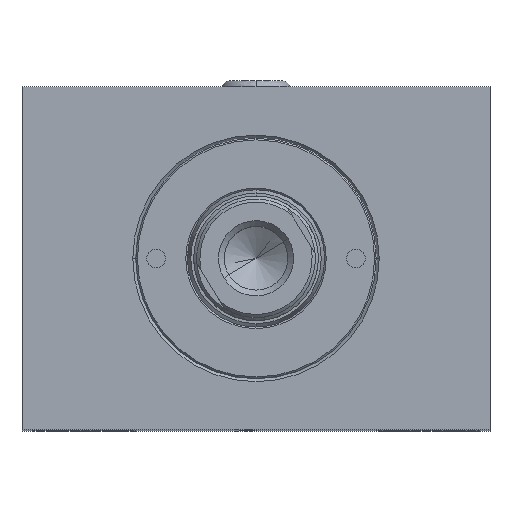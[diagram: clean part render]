
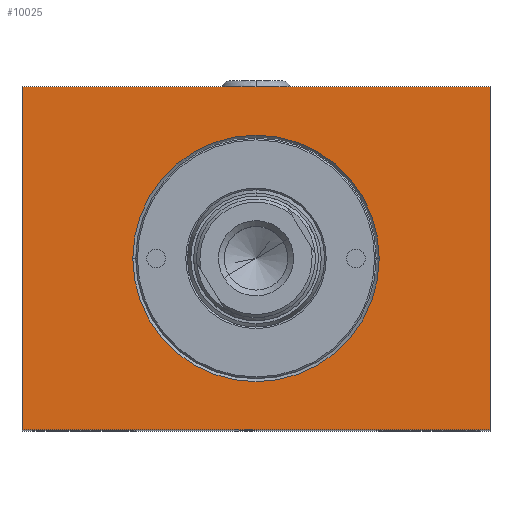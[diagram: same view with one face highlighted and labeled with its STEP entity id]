
A CAD part, top view. The second image highlights one B-rep face of the part: STEP entity #10025.
In plain terms, the highlighted planar face has unit normal (0, 0, 1).
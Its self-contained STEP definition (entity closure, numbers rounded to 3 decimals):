
#85 = DIRECTION ( 'NONE',  ( -1., 0., 0. ) ) ;
#316 = ORIENTED_EDGE ( 'NONE', *, *, #9541, .T. ) ;
#376 = VERTEX_POINT ( 'NONE', #7212 ) ;
#566 = DIRECTION ( 'NONE',  ( 0., 0., -1. ) ) ;
#610 = DIRECTION ( 'NONE',  ( -1., 0., 0. ) ) ;
#1120 = CARTESIAN_POINT ( 'NONE',  ( 0., 0., 115. ) ) ;
#2070 = CARTESIAN_POINT ( 'NONE',  ( 17.75, 27.5, 115. ) ) ;
#2114 = DIRECTION ( 'NONE',  ( -1., 0., 0. ) ) ;
#2134 = AXIS2_PLACEMENT_3D ( 'NONE', #10602, #566, #610 ) ;
#2233 = EDGE_LOOP ( 'NONE', ( #10395, #316 ) ) ;
#2587 = AXIS2_PLACEMENT_3D ( 'NONE', #5149, #7087, #85 ) ;
#2589 = VECTOR ( 'NONE', #2114, 1000. ) ;
#2710 = CARTESIAN_POINT ( 'NONE',  ( 37.5, 27.5, 115. ) ) ;
#3053 = VECTOR ( 'NONE', #8786, 1000. ) ;
#3175 = CARTESIAN_POINT ( 'NONE',  ( 0., 0., 115. ) ) ;
#3325 = CIRCLE ( 'NONE', #9584, 19.75 ) ;
#3642 = CARTESIAN_POINT ( 'NONE',  ( 75., 0., 115. ) ) ;
#3701 = VECTOR ( 'NONE', #3806, 1000. ) ;
#3766 = VERTEX_POINT ( 'NONE', #2070 ) ;
#3806 = DIRECTION ( 'NONE',  ( 0., 1., 0. ) ) ;
#3815 = CIRCLE ( 'NONE', #2134, 19.75 ) ;
#4022 = ORIENTED_EDGE ( 'NONE', *, *, #7367, .T. ) ;
#4174 = VERTEX_POINT ( 'NONE', #3642 ) ;
#4389 = EDGE_LOOP ( 'NONE', ( #8197, #4022, #12646, #12717 ) ) ;
#4638 = LINE ( 'NONE', #3175, #7646 ) ;
#5149 = CARTESIAN_POINT ( 'NONE',  ( 0., 0., 115. ) ) ;
#5300 = CARTESIAN_POINT ( 'NONE',  ( 75., 55., 115. ) ) ;
#6032 = LINE ( 'NONE', #8145, #2589 ) ;
#6694 = LINE ( 'NONE', #7675, #3053 ) ;
#6837 = DIRECTION ( 'NONE',  ( -1., 0., 0. ) ) ;
#7087 = DIRECTION ( 'NONE',  ( 0., 0., -1. ) ) ;
#7212 = CARTESIAN_POINT ( 'NONE',  ( 57.25, 27.5, 115. ) ) ;
#7291 = VERTEX_POINT ( 'NONE', #9720 ) ;
#7367 = EDGE_CURVE ( 'NONE', #7992, #4174, #6694, .T. ) ;
#7646 = VECTOR ( 'NONE', #10214, 1000. ) ;
#7675 = CARTESIAN_POINT ( 'NONE',  ( 0., 0., 115. ) ) ;
#7866 = EDGE_CURVE ( 'NONE', #7291, #7992, #4638, .T. ) ;
#7927 = VERTEX_POINT ( 'NONE', #5300 ) ;
#7969 = EDGE_CURVE ( 'NONE', #7927, #7291, #6032, .T. ) ;
#7992 = VERTEX_POINT ( 'NONE', #1120 ) ;
#8145 = CARTESIAN_POINT ( 'NONE',  ( 0., 55., 115. ) ) ;
#8197 = ORIENTED_EDGE ( 'NONE', *, *, #7866, .T. ) ;
#8354 = FACE_OUTER_BOUND ( 'NONE', #4389, .T. ) ;
#8673 = CARTESIAN_POINT ( 'NONE',  ( 75., 0., 115. ) ) ;
#8786 = DIRECTION ( 'NONE',  ( 1., 0., 0. ) ) ;
#9022 = LINE ( 'NONE', #8673, #3701 ) ;
#9541 = EDGE_CURVE ( 'NONE', #3766, #376, #3815, .T. ) ;
#9584 = AXIS2_PLACEMENT_3D ( 'NONE', #2710, #12877, #6837 ) ;
#9720 = CARTESIAN_POINT ( 'NONE',  ( 0., 55., 115. ) ) ;
#10025 = ADVANCED_FACE ( 'NONE', ( #10415, #8354 ), #11188, .F. ) ;
#10214 = DIRECTION ( 'NONE',  ( 0., -1., 0. ) ) ;
#10395 = ORIENTED_EDGE ( 'NONE', *, *, #10739, .T. ) ;
#10415 = FACE_BOUND ( 'NONE', #2233, .T. ) ;
#10602 = CARTESIAN_POINT ( 'NONE',  ( 37.5, 27.5, 115. ) ) ;
#10739 = EDGE_CURVE ( 'NONE', #376, #3766, #3325, .T. ) ;
#11188 = PLANE ( 'NONE',  #2587 ) ;
#12646 = ORIENTED_EDGE ( 'NONE', *, *, #12911, .T. ) ;
#12717 = ORIENTED_EDGE ( 'NONE', *, *, #7969, .T. ) ;
#12877 = DIRECTION ( 'NONE',  ( 0., 0., -1. ) ) ;
#12911 = EDGE_CURVE ( 'NONE', #4174, #7927, #9022, .T. ) ;
